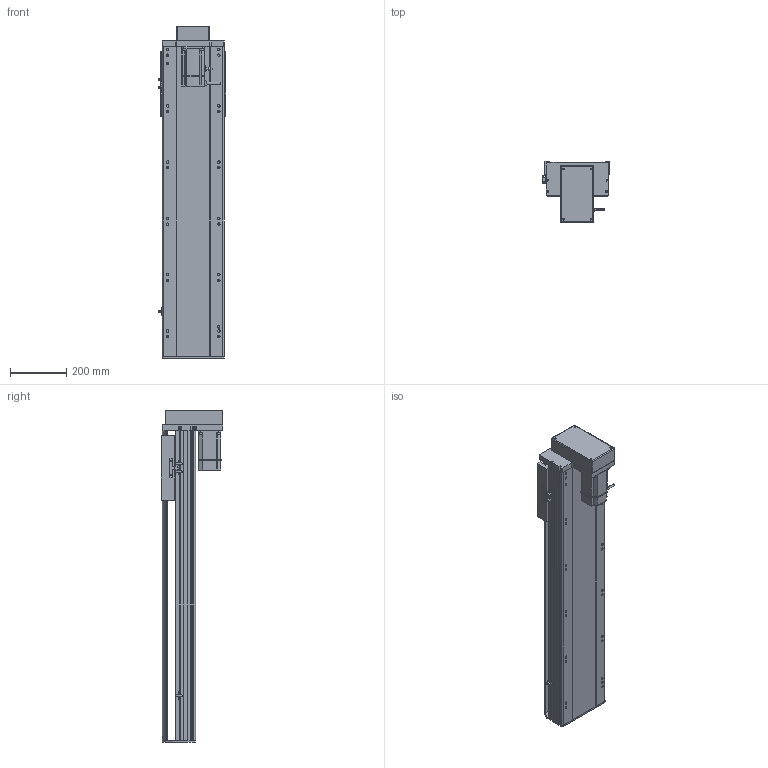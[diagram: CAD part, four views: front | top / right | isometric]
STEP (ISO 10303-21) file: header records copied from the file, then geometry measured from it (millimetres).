
FILE_DESCRIPTION (( 'STEP AP214' ), '1' );
FILE_NAME ('RTH22-XX-800-M-M75-C4.STEP', '2025-10-24T11:09:46', ( 'Microsoft' ), ( 'Microsoft' ), 'SwSTEP 2.0', 'SolidWorks 2018', '' );
FILE_SCHEMA (( 'AUTOMOTIVE_DESIGN' ));
Length unit declared in the file: millimetre
Products named in the file (10): N_RTH22-L-004-SFS25賑釱^RTH22-XX-XX-M-M75-C4; N_750W萇儂^RTH22-XX-XX-M-M75-C4; N_RTH22-M-018裔赽^RTH22-XX-XX-M-M75-C4; N_RTH22-GY-013外置感应片^RTH22-XX-XX-M-M75-C4; N_OMRON EE-SX672 传感器^RTH22-XX-XX-M-M75-C4; N_RTH22-M-008-P75萇儂啣^RTH22-XX-XX-M-M75-C4; N_RTH22-GY-001耜裔^RTH22-XX-XX-M-M75-C4; N_RTH22-L-011菁釱^RTH22-XX-XX-M-M75-C4; RTH22-XX-800-M-M75-C4; N_RTH22-M-007奻裔^RTH22-XX-XX-M-M75-C4
Assembly tree (11 placements, depth 2):
  RTH22-XX-800-M-M75-C4
    N_RTH22-L-011菁釱^RTH22-XX-XX-M-M75-C4
    N_RTH22-GY-001耜裔^RTH22-XX-XX-M-M75-C4
    N_750W萇儂^RTH22-XX-XX-M-M75-C4
    N_RTH22-M-008-P75萇儂啣^RTH22-XX-XX-M-M75-C4
    N_RTH22-M-007奻裔^RTH22-XX-XX-M-M75-C4
    N_RTH22-M-018裔赽^RTH22-XX-XX-M-M75-C4
    N_OMRON EE-SX672 传感器^RTH22-XX-XX-M-M75-C4  x3
    N_RTH22-GY-013外置感应片^RTH22-XX-XX-M-M75-C4
    N_RTH22-L-004-SFS25賑釱^RTH22-XX-XX-M-M75-C4
Bounding box: 238.5 x 218.5 x 1179.7 mm (x, y, z)
Volume: 16504813.1 mm3; surface area: 1833685 mm2
Topology: 11 solids, 11 shells, 1605 faces, 4380 edges, 2825 vertices
Faces by surface type: plane 805, cylinder 463, bspline 279, cone 58
Entity records: 40341 total; most frequent: CARTESIAN_POINT 12216, ORIENTED_EDGE 5736, DIRECTION 5402, EDGE_CURVE 2868, VERTEX_POINT 1861, AXIS2_PLACEMENT_3D 1807, VECTOR 1788, LINE 1788
